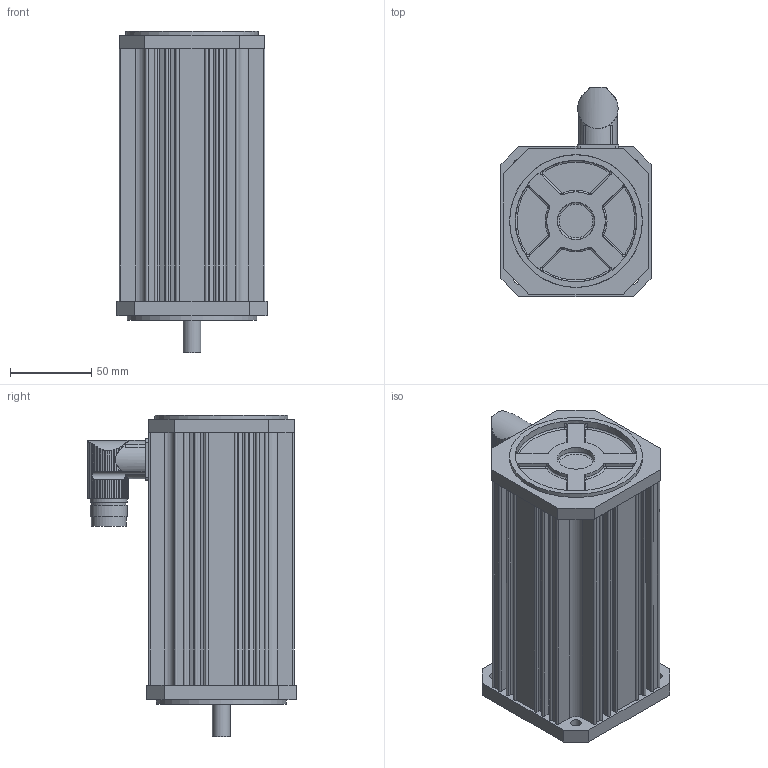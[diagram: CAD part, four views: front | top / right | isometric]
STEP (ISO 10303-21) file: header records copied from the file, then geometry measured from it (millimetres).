
FILE_DESCRIPTION(/* description */ (''),/* implementation_level */ '2;1');
FILE_NAME(/* name */ 'KSA348',/* time_stamp */ '2009-02-26T13:09:26+01:00',/* author */ (''),/* organization */ (''),/* preprocessor_version */ 'ST-DEVELOPER v8',/* originating_system */ 'UNIGRAPHICS SOLUTIONS - UNIGRAPHICS 18.0',/* authorisation */ '');
FILE_SCHEMA (('AUTOMOTIVE_DESIGN { 1 2 10303 214 0 1 1 1 }'));
Length unit declared in the file: millimetre
Products named in the file (4): Winkelflanschdose_0; Lagersch3BS_0; Lagersch3AS_0; KSA324-1_0
Assembly tree (3 placements, depth 2):
  KSA324-1_0
    Lagersch3AS_0
    Lagersch3BS_0
    Winkelflanschdose_0
Bounding box: 92.6 x 128.79 x 198.5 mm (x, y, z)
Volume: 428285.4 mm3; surface area: 163870.1 mm2
Topology: 4 solids, 4 shells, 392 faces, 1074 edges, 708 vertices
Faces by surface type: cylinder 231, plane 108, bspline 32, torus 12, cone 9
Full cylindrical faces by diameter (mm): 6.5 x4, 11 x1, 12 x1, 16 x1, 20 x1, 21 x1, 21.5 x1, 23 x2, 45 x1, 73 x1, 80 x2, 81 x2
Entity records: 13966 total; most frequent: CARTESIAN_POINT 4040, ORIENTED_EDGE 2072, DIRECTION 1924, EDGE_CURVE 1036, AXIS2_PLACEMENT_3D 750, VERTEX_POINT 696, EDGE_LOOP 446, LINE 424
